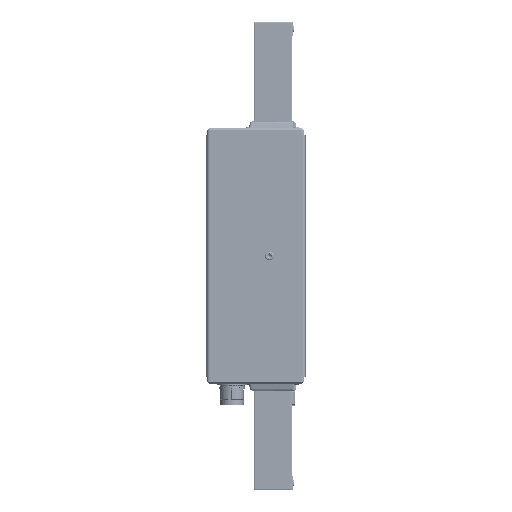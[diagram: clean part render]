
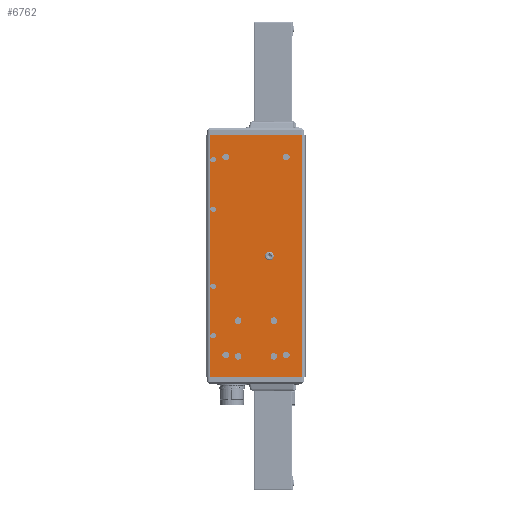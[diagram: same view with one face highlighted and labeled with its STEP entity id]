
A CAD part, left-side view. The second image highlights one B-rep face of the part: STEP entity #6762.
In plain terms, the highlighted planar face has unit normal (-1, 0, 0).
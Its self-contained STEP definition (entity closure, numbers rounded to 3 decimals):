
#40=DIRECTION('',(0.,-1.,0.));
#41=VECTOR('',#40,84.);
#42=CARTESIAN_POINT('',(-53.248,42.,0.));
#43=LINE('',#42,#41);
#495=DIRECTION('',(0.,-1.,0.));
#496=VECTOR('',#495,84.);
#497=CARTESIAN_POINT('',(-53.248,42.,220.));
#498=LINE('',#497,#496);
#499=DIRECTION('',(0.,0.,-1.));
#500=VECTOR('',#499,220.);
#501=CARTESIAN_POINT('',(-53.248,-42.,220.));
#502=LINE('',#501,#500);
#503=DIRECTION('',(0.,0.,-1.));
#504=VECTOR('',#503,220.);
#505=CARTESIAN_POINT('',(-53.248,42.,220.));
#506=LINE('',#505,#504);
#507=CARTESIAN_POINT('',(-53.248,27.5,20.));
#508=DIRECTION('',(1.,0.,0.));
#509=DIRECTION('',(0.,1.,0.));
#510=AXIS2_PLACEMENT_3D('',#507,#508,#509);
#512=CARTESIAN_POINT('',(-53.248,27.5,20.));
#513=DIRECTION('',(1.,0.,0.));
#514=DIRECTION('',(0.,-1.,0.));
#515=AXIS2_PLACEMENT_3D('',#512,#513,#514);
#517=CARTESIAN_POINT('',(-53.248,-27.5,20.));
#518=DIRECTION('',(1.,0.,0.));
#519=DIRECTION('',(0.,1.,0.));
#520=AXIS2_PLACEMENT_3D('',#517,#518,#519);
#522=CARTESIAN_POINT('',(-53.248,-27.5,20.));
#523=DIRECTION('',(1.,0.,0.));
#524=DIRECTION('',(0.,-1.,0.));
#525=AXIS2_PLACEMENT_3D('',#522,#523,#524);
#527=CARTESIAN_POINT('',(-53.248,16.25,18.75));
#528=DIRECTION('',(1.,0.,0.));
#529=DIRECTION('',(0.,1.,0.));
#530=AXIS2_PLACEMENT_3D('',#527,#528,#529);
#532=CARTESIAN_POINT('',(-53.248,16.25,18.75));
#533=DIRECTION('',(1.,0.,0.));
#534=DIRECTION('',(0.,-1.,0.));
#535=AXIS2_PLACEMENT_3D('',#532,#533,#534);
#537=CARTESIAN_POINT('',(-53.248,16.25,51.25));
#538=DIRECTION('',(1.,0.,0.));
#539=DIRECTION('',(0.,1.,0.));
#540=AXIS2_PLACEMENT_3D('',#537,#538,#539);
#542=CARTESIAN_POINT('',(-53.248,16.25,51.25));
#543=DIRECTION('',(1.,0.,0.));
#544=DIRECTION('',(0.,-1.,0.));
#545=AXIS2_PLACEMENT_3D('',#542,#543,#544);
#547=CARTESIAN_POINT('',(-53.248,-16.25,18.75));
#548=DIRECTION('',(1.,0.,0.));
#549=DIRECTION('',(0.,1.,0.));
#550=AXIS2_PLACEMENT_3D('',#547,#548,#549);
#552=CARTESIAN_POINT('',(-53.248,-16.25,18.75));
#553=DIRECTION('',(1.,0.,0.));
#554=DIRECTION('',(0.,-1.,0.));
#555=AXIS2_PLACEMENT_3D('',#552,#553,#554);
#557=CARTESIAN_POINT('',(-53.248,-16.25,51.25));
#558=DIRECTION('',(1.,0.,0.));
#559=DIRECTION('',(0.,1.,0.));
#560=AXIS2_PLACEMENT_3D('',#557,#558,#559);
#562=CARTESIAN_POINT('',(-53.248,-16.25,51.25));
#563=DIRECTION('',(1.,0.,0.));
#564=DIRECTION('',(0.,-1.,0.));
#565=AXIS2_PLACEMENT_3D('',#562,#563,#564);
#567=CARTESIAN_POINT('',(-53.248,39.,37.5));
#568=DIRECTION('',(-1.,0.,0.));
#569=DIRECTION('',(0.,-1.,0.));
#570=AXIS2_PLACEMENT_3D('',#567,#568,#569);
#572=CARTESIAN_POINT('',(-53.248,39.,37.5));
#573=DIRECTION('',(-1.,0.,0.));
#574=DIRECTION('',(0.,1.,0.));
#575=AXIS2_PLACEMENT_3D('',#572,#573,#574);
#577=CARTESIAN_POINT('',(-53.248,39.,82.5));
#578=DIRECTION('',(-1.,0.,0.));
#579=DIRECTION('',(0.,-1.,0.));
#580=AXIS2_PLACEMENT_3D('',#577,#578,#579);
#582=CARTESIAN_POINT('',(-53.248,39.,82.5));
#583=DIRECTION('',(-1.,0.,0.));
#584=DIRECTION('',(0.,1.,0.));
#585=AXIS2_PLACEMENT_3D('',#582,#583,#584);
#587=CARTESIAN_POINT('',(-53.248,39.,197.5));
#588=DIRECTION('',(-1.,0.,0.));
#589=DIRECTION('',(0.,-1.,0.));
#590=AXIS2_PLACEMENT_3D('',#587,#588,#589);
#592=CARTESIAN_POINT('',(-53.248,39.,197.5));
#593=DIRECTION('',(-1.,0.,0.));
#594=DIRECTION('',(0.,1.,0.));
#595=AXIS2_PLACEMENT_3D('',#592,#593,#594);
#597=CARTESIAN_POINT('',(-53.248,39.,152.5));
#598=DIRECTION('',(-1.,0.,0.));
#599=DIRECTION('',(0.,-1.,0.));
#600=AXIS2_PLACEMENT_3D('',#597,#598,#599);
#602=CARTESIAN_POINT('',(-53.248,39.,152.5));
#603=DIRECTION('',(-1.,0.,0.));
#604=DIRECTION('',(0.,1.,0.));
#605=AXIS2_PLACEMENT_3D('',#602,#603,#604);
#607=CARTESIAN_POINT('',(-53.248,27.5,200.));
#608=DIRECTION('',(1.,0.,0.));
#609=DIRECTION('',(0.,1.,0.));
#610=AXIS2_PLACEMENT_3D('',#607,#608,#609);
#612=CARTESIAN_POINT('',(-53.248,27.5,200.));
#613=DIRECTION('',(1.,0.,0.));
#614=DIRECTION('',(0.,-1.,0.));
#615=AXIS2_PLACEMENT_3D('',#612,#613,#614);
#617=CARTESIAN_POINT('',(-53.248,-27.5,200.));
#618=DIRECTION('',(1.,0.,0.));
#619=DIRECTION('',(0.,1.,0.));
#620=AXIS2_PLACEMENT_3D('',#617,#618,#619);
#622=CARTESIAN_POINT('',(-53.248,-27.5,200.));
#623=DIRECTION('',(1.,0.,0.));
#624=DIRECTION('',(0.,-1.,0.));
#625=AXIS2_PLACEMENT_3D('',#622,#623,#624);
#627=CARTESIAN_POINT('',(-53.248,-11.979,110.));
#628=DIRECTION('',(1.,0.,0.));
#629=DIRECTION('',(0.,1.,0.));
#630=AXIS2_PLACEMENT_3D('',#627,#628,#629);
#632=CARTESIAN_POINT('',(-53.248,-11.979,110.));
#633=DIRECTION('',(1.,0.,0.));
#634=DIRECTION('',(0.,-1.,0.));
#635=AXIS2_PLACEMENT_3D('',#632,#633,#634);
#4867=CARTESIAN_POINT('',(-53.248,42.,0.));
#4869=VERTEX_POINT('',#4867);
#4872=CARTESIAN_POINT('',(-53.248,-42.,0.));
#4874=VERTEX_POINT('',#4872);
#5246=CARTESIAN_POINT('',(-53.248,30.5,20.));
#5247=CARTESIAN_POINT('',(-53.248,24.5,20.));
#5248=VERTEX_POINT('',#5246);
#5249=VERTEX_POINT('',#5247);
#5254=CARTESIAN_POINT('',(-53.248,-24.5,20.));
#5255=CARTESIAN_POINT('',(-53.248,-30.5,20.));
#5256=VERTEX_POINT('',#5254);
#5257=VERTEX_POINT('',#5255);
#5262=CARTESIAN_POINT('',(-53.248,19.25,18.75));
#5263=CARTESIAN_POINT('',(-53.248,13.25,18.75));
#5264=VERTEX_POINT('',#5262);
#5265=VERTEX_POINT('',#5263);
#5278=CARTESIAN_POINT('',(-53.248,19.25,51.25));
#5279=CARTESIAN_POINT('',(-53.248,13.25,51.25));
#5280=VERTEX_POINT('',#5278);
#5281=VERTEX_POINT('',#5279);
#5282=CARTESIAN_POINT('',(-53.248,-13.25,18.75));
#5283=CARTESIAN_POINT('',(-53.248,-19.25,18.75));
#5284=VERTEX_POINT('',#5282);
#5285=VERTEX_POINT('',#5283);
#5286=CARTESIAN_POINT('',(-53.248,-13.25,51.25));
#5287=CARTESIAN_POINT('',(-53.248,-19.25,51.25));
#5288=VERTEX_POINT('',#5286);
#5289=VERTEX_POINT('',#5287);
#5686=CARTESIAN_POINT('',(-53.248,42.,220.));
#5687=CARTESIAN_POINT('',(-53.248,-42.,220.));
#5688=VERTEX_POINT('',#5686);
#5689=VERTEX_POINT('',#5687);
#5906=CARTESIAN_POINT('',(-53.248,36.5,37.5));
#5907=CARTESIAN_POINT('',(-53.248,41.5,37.5));
#5908=VERTEX_POINT('',#5906);
#5909=VERTEX_POINT('',#5907);
#5914=CARTESIAN_POINT('',(-53.248,36.5,82.5));
#5915=CARTESIAN_POINT('',(-53.248,41.5,82.5));
#5916=VERTEX_POINT('',#5914);
#5917=VERTEX_POINT('',#5915);
#5922=CARTESIAN_POINT('',(-53.248,36.5,197.5));
#5923=CARTESIAN_POINT('',(-53.248,41.5,197.5));
#5924=VERTEX_POINT('',#5922);
#5925=VERTEX_POINT('',#5923);
#5930=CARTESIAN_POINT('',(-53.248,36.5,152.5));
#5931=CARTESIAN_POINT('',(-53.248,41.5,152.5));
#5932=VERTEX_POINT('',#5930);
#5933=VERTEX_POINT('',#5931);
#5954=CARTESIAN_POINT('',(-53.248,30.5,200.));
#5955=CARTESIAN_POINT('',(-53.248,24.5,200.));
#5956=VERTEX_POINT('',#5954);
#5957=VERTEX_POINT('',#5955);
#5962=CARTESIAN_POINT('',(-53.248,-24.5,200.));
#5963=CARTESIAN_POINT('',(-53.248,-30.5,200.));
#5964=VERTEX_POINT('',#5962);
#5965=VERTEX_POINT('',#5963);
#6018=CARTESIAN_POINT('',(-53.248,-7.979,110.));
#6019=CARTESIAN_POINT('',(-53.248,-15.979,110.));
#6020=VERTEX_POINT('',#6018);
#6021=VERTEX_POINT('',#6019);
#6672=CARTESIAN_POINT('',(-53.248,45.,0.));
#6673=DIRECTION('',(-1.,0.,0.));
#6674=DIRECTION('',(0.,-1.,0.));
#6675=AXIS2_PLACEMENT_3D('',#6672,#6673,#6674);
#6676=PLANE('',#6675);
#6677=ORIENTED_EDGE('',*,*,#6513,.T.);
#6679=ORIENTED_EDGE('',*,*,#6678,.T.);
#6680=ORIENTED_EDGE('',*,*,#6163,.F.);
#6681=ORIENTED_EDGE('',*,*,#6664,.F.);
#6682=EDGE_LOOP('',(#6677,#6679,#6680,#6681));
#6683=FACE_OUTER_BOUND('',#6682,.F.);
#6685=ORIENTED_EDGE('',*,*,#6684,.F.);
#6687=ORIENTED_EDGE('',*,*,#6686,.F.);
#6688=EDGE_LOOP('',(#6685,#6687));
#6689=FACE_BOUND('',#6688,.F.);
#6691=ORIENTED_EDGE('',*,*,#6690,.F.);
#6693=ORIENTED_EDGE('',*,*,#6692,.F.);
#6694=EDGE_LOOP('',(#6691,#6693));
#6695=FACE_BOUND('',#6694,.F.);
#6697=ORIENTED_EDGE('',*,*,#6696,.F.);
#6699=ORIENTED_EDGE('',*,*,#6698,.F.);
#6700=EDGE_LOOP('',(#6697,#6699));
#6701=FACE_BOUND('',#6700,.F.);
#6703=ORIENTED_EDGE('',*,*,#6702,.F.);
#6705=ORIENTED_EDGE('',*,*,#6704,.F.);
#6706=EDGE_LOOP('',(#6703,#6705));
#6707=FACE_BOUND('',#6706,.F.);
#6709=ORIENTED_EDGE('',*,*,#6708,.F.);
#6711=ORIENTED_EDGE('',*,*,#6710,.F.);
#6712=EDGE_LOOP('',(#6709,#6711));
#6713=FACE_BOUND('',#6712,.F.);
#6715=ORIENTED_EDGE('',*,*,#6714,.F.);
#6717=ORIENTED_EDGE('',*,*,#6716,.F.);
#6718=EDGE_LOOP('',(#6715,#6717));
#6719=FACE_BOUND('',#6718,.F.);
#6721=ORIENTED_EDGE('',*,*,#6720,.T.);
#6723=ORIENTED_EDGE('',*,*,#6722,.T.);
#6724=EDGE_LOOP('',(#6721,#6723));
#6725=FACE_BOUND('',#6724,.F.);
#6727=ORIENTED_EDGE('',*,*,#6726,.T.);
#6729=ORIENTED_EDGE('',*,*,#6728,.T.);
#6730=EDGE_LOOP('',(#6727,#6729));
#6731=FACE_BOUND('',#6730,.F.);
#6733=ORIENTED_EDGE('',*,*,#6732,.T.);
#6735=ORIENTED_EDGE('',*,*,#6734,.T.);
#6736=EDGE_LOOP('',(#6733,#6735));
#6737=FACE_BOUND('',#6736,.F.);
#6739=ORIENTED_EDGE('',*,*,#6738,.T.);
#6741=ORIENTED_EDGE('',*,*,#6740,.T.);
#6742=EDGE_LOOP('',(#6739,#6741));
#6743=FACE_BOUND('',#6742,.F.);
#6745=ORIENTED_EDGE('',*,*,#6744,.F.);
#6747=ORIENTED_EDGE('',*,*,#6746,.F.);
#6748=EDGE_LOOP('',(#6745,#6747));
#6749=FACE_BOUND('',#6748,.F.);
#6751=ORIENTED_EDGE('',*,*,#6750,.F.);
#6753=ORIENTED_EDGE('',*,*,#6752,.F.);
#6754=EDGE_LOOP('',(#6751,#6753));
#6755=FACE_BOUND('',#6754,.F.);
#6757=ORIENTED_EDGE('',*,*,#6756,.F.);
#6759=ORIENTED_EDGE('',*,*,#6758,.F.);
#6760=EDGE_LOOP('',(#6757,#6759));
#6761=FACE_BOUND('',#6760,.F.);
#6762=ADVANCED_FACE('',(#6683,#6689,#6695,#6701,#6707,#6713,#6719,#6725,#6731,
#6737,#6743,#6749,#6755,#6761),#6676,.T.);
#511=CIRCLE('',#510,3.);
#516=CIRCLE('',#515,3.);
#521=CIRCLE('',#520,3.);
#526=CIRCLE('',#525,3.);
#531=CIRCLE('',#530,3.);
#536=CIRCLE('',#535,3.);
#541=CIRCLE('',#540,3.);
#546=CIRCLE('',#545,3.);
#551=CIRCLE('',#550,3.);
#556=CIRCLE('',#555,3.);
#561=CIRCLE('',#560,3.);
#566=CIRCLE('',#565,3.);
#571=CIRCLE('',#570,2.5);
#576=CIRCLE('',#575,2.5);
#581=CIRCLE('',#580,2.5);
#586=CIRCLE('',#585,2.5);
#591=CIRCLE('',#590,2.5);
#596=CIRCLE('',#595,2.5);
#601=CIRCLE('',#600,2.5);
#606=CIRCLE('',#605,2.5);
#611=CIRCLE('',#610,3.);
#616=CIRCLE('',#615,3.);
#621=CIRCLE('',#620,3.);
#626=CIRCLE('',#625,3.);
#631=CIRCLE('',#630,4.);
#636=CIRCLE('',#635,4.);
#6163=EDGE_CURVE('',#4869,#4874,#43,.T.);
#6513=EDGE_CURVE('',#5688,#5689,#498,.T.);
#6664=EDGE_CURVE('',#5688,#4869,#506,.T.);
#6678=EDGE_CURVE('',#5689,#4874,#502,.T.);
#6684=EDGE_CURVE('',#5248,#5249,#511,.T.);
#6686=EDGE_CURVE('',#5249,#5248,#516,.T.);
#6690=EDGE_CURVE('',#5256,#5257,#521,.T.);
#6692=EDGE_CURVE('',#5257,#5256,#526,.T.);
#6696=EDGE_CURVE('',#5264,#5265,#531,.T.);
#6698=EDGE_CURVE('',#5265,#5264,#536,.T.);
#6702=EDGE_CURVE('',#5280,#5281,#541,.T.);
#6704=EDGE_CURVE('',#5281,#5280,#546,.T.);
#6708=EDGE_CURVE('',#5284,#5285,#551,.T.);
#6710=EDGE_CURVE('',#5285,#5284,#556,.T.);
#6714=EDGE_CURVE('',#5288,#5289,#561,.T.);
#6716=EDGE_CURVE('',#5289,#5288,#566,.T.);
#6720=EDGE_CURVE('',#5908,#5909,#571,.T.);
#6722=EDGE_CURVE('',#5909,#5908,#576,.T.);
#6726=EDGE_CURVE('',#5916,#5917,#581,.T.);
#6728=EDGE_CURVE('',#5917,#5916,#586,.T.);
#6732=EDGE_CURVE('',#5924,#5925,#591,.T.);
#6734=EDGE_CURVE('',#5925,#5924,#596,.T.);
#6738=EDGE_CURVE('',#5932,#5933,#601,.T.);
#6740=EDGE_CURVE('',#5933,#5932,#606,.T.);
#6744=EDGE_CURVE('',#5956,#5957,#611,.T.);
#6746=EDGE_CURVE('',#5957,#5956,#616,.T.);
#6750=EDGE_CURVE('',#5964,#5965,#621,.T.);
#6752=EDGE_CURVE('',#5965,#5964,#626,.T.);
#6756=EDGE_CURVE('',#6020,#6021,#631,.T.);
#6758=EDGE_CURVE('',#6021,#6020,#636,.T.);
